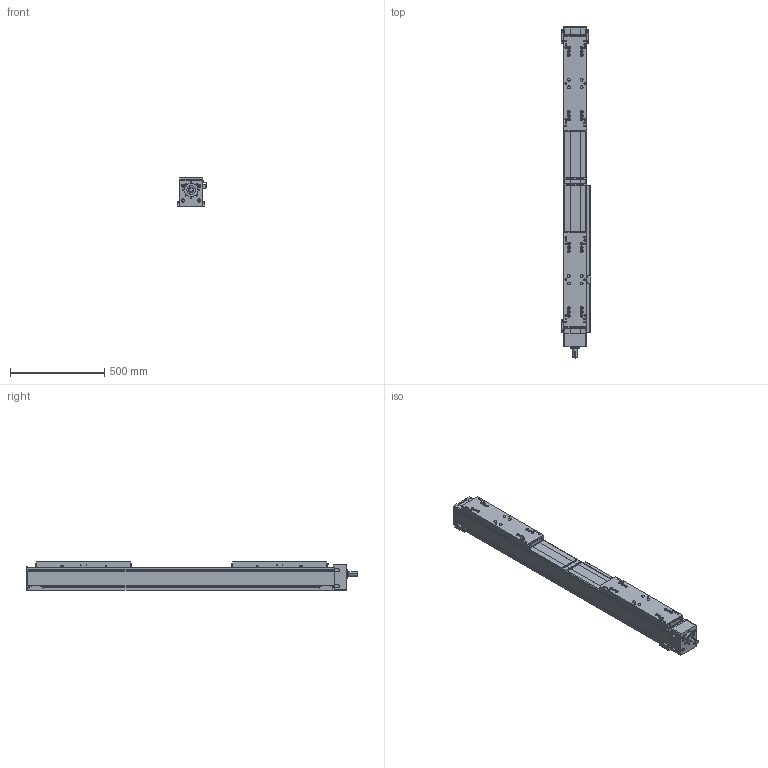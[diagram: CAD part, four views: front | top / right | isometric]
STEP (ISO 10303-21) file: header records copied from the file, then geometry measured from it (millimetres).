
FILE_DESCRIPTION(('Creo Elements/Direct Modeling STEP Export'),'2;1');
FILE_NAME('B120-C-SSS-RL-500-EN-Leiste-Seite-C.stp','2025-01-09T10:30:39',(''),(''),'Creo Elements/Direct Modeling STEP processor for AP214 (Solid Model)','Creo Elements/Direct Modeling 20.1D 10-Oct-2020 (C) Parametric Technology GmbH','');
FILE_SCHEMA(('AUTOMOTIVE_DESIGN { 1 0 10303 214 1 1 1 1 }'));
Products named in the file (21): B120-C-SSS-GRUNDKOERPER-BLAU.PRT; B120-C-S-GRUNDKOERPER.ASM; BETA-S-GRUNDKOERPER.ASM; B120-C-SSS-SCHLITTEN-500.PRT; B120-ABSTREIFER-BUERSTE-B_10588.PRT; M4X8_ISO7380-1_10252.PRT; B120-ABSTREIFER-BUERSTE-BLAU.ASM; B120-ABSTREIFER.ASM; B120-C-S-SCHLITTEN.ASM; BETA-S-SCHLITTEN.ASM; EN-SCHALTFAHNE-10407.PRT; M4X6_ISO7380-1_10251.PRT; EN-SCHALTFAHNE-10407.ASM; EN-LEISTE.PRT; EN-SCHALTER.PRT; INDUKTIVE-ENDSCHALTER.ASM; BETA-ENDSCHALTER.ASM; BL7_18430.PRT; BL7-PAAR_18430.ASM; BETA-BEFESTIGUNGSELEMENTE.ASM; B120-C-SSS-RL-500-EN-Leiste-Seite-C
Assembly tree (28 placements, depth 6):
  B120-C-SSS-RL-500-EN-Leiste-Seite-C
    BETA-BEFESTIGUNGSELEMENTE.ASM
      BL7-PAAR_18430.ASM  x2
        BL7_18430.PRT
    BETA-ENDSCHALTER.ASM
      INDUKTIVE-ENDSCHALTER.ASM
        EN-SCHALTER.PRT  x3
        EN-LEISTE.PRT
      EN-SCHALTFAHNE-10407.ASM
        M4X6_ISO7380-1_10251.PRT  x2
        EN-SCHALTFAHNE-10407.PRT
    BETA-S-SCHLITTEN.ASM
      B120-C-S-SCHLITTEN.ASM  x2
        B120-ABSTREIFER.ASM
          B120-ABSTREIFER-BUERSTE-BLAU.ASM
            M4X8_ISO7380-1_10252.PRT  x2
            B120-ABSTREIFER-BUERSTE-B_10588.PRT
        B120-C-SSS-SCHLITTEN-500.PRT
    BETA-S-GRUNDKOERPER.ASM
      B120-C-S-GRUNDKOERPER.ASM
        B120-C-SSS-GRUNDKOERPER-BLAU.PRT
Bounding box: 154.5 x 1760 x 150 mm (x, y, z)
Volume: 27087081 mm3; surface area: 1639348.7 mm2
Topology: 26 solids, 26 shells, 5844 faces, 15926 edges, 10426 vertices
Faces by surface type: plane 4908, cylinder 628, cone 266, torus 22, sphere 20
Entity records: 192909 total; most frequent: CARTESIAN_POINT 28575, ORIENTED_EDGE 28370, DIRECTION 24701, EDGE_CURVE 14185, VECTOR 13325, LINE 13325, VERTEX_POINT 9394, AXIS2_PLACEMENT_3D 5688
